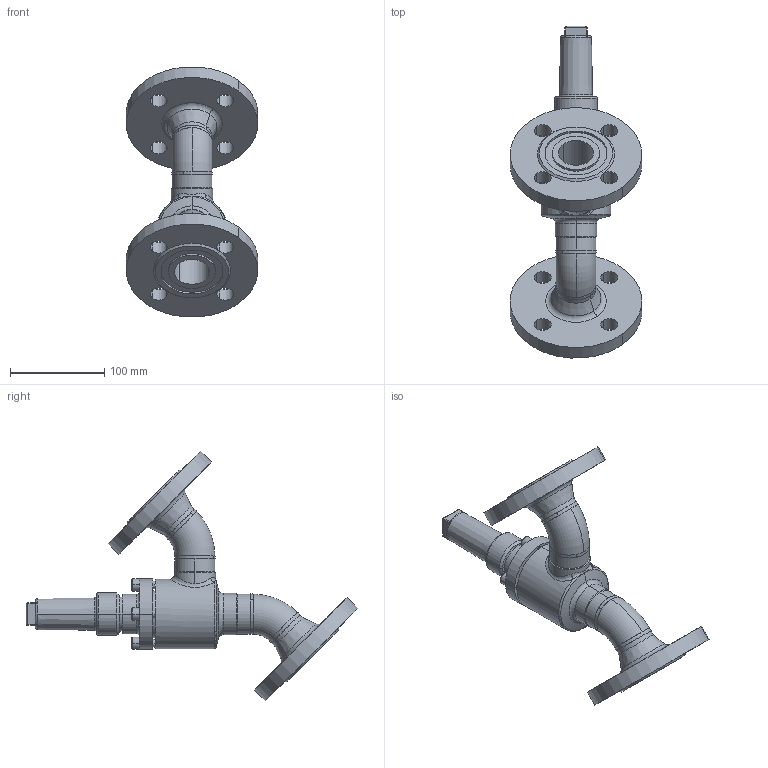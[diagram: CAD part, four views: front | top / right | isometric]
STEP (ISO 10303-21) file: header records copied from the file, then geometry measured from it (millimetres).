
FILE_DESCRIPTION (( 'STEP AP214' ), '1' );
FILE_NAME ('HRAR22320D13-DN032_DIN-FL-N_PS40.STEP', '2006-04-27T12:35:25', ( 'Herr Grams' ), ( 'AWP GmbH' ), 'SwSTEP 2.0', 'SolidWorks 2002296', '' );
FILE_SCHEMA (( 'AUTOMOTIVE_DESIGN' ));
Length unit declared in the file: millimetre
Products named in the file (14): HRAR22320D13-DN032_DIN-FL-N_PS40; Kappe16402_DN010-32_Standard; AVR26300E13_Deck+Schr-DN25-32_Standard; Deckel26300E13-DN25-32_Standard; Zylinderschraube-DIN912_M 8x 25; Gehäuse-kpl16320-DN032_DIN_PS40_Standard; bead16320-DN032-2_Standard; bead16320-DN032-1_Standard; Gehäuse-kpl16300-DN032_R1_Standard; Rohrbogen 45°_R1-Fase_Rohrbogen-DN032-45°; Gehäuse16400-DN032_Standard; bead16300-Geh-032-1_Standard; bead16300-Geh-032-2_Standard; Flansch-DIN2635-Nut_PS40_DIN-Flansch-DN032_PS40-Nut
Assembly tree (18 placements, depth 4):
  HRAR22320D13-DN032_DIN-FL-N_PS40
    Gehäuse-kpl16320-DN032_DIN_PS40_Standard
      bead16320-DN032-1_Standard
      Gehäuse-kpl16300-DN032_R1_Standard
        Rohrbogen 45°_R1-Fase_Rohrbogen-DN032-45°  x2
        Gehäuse16400-DN032_Standard
        bead16300-Geh-032-1_Standard
        bead16300-Geh-032-2_Standard
      Flansch-DIN2635-Nut_PS40_DIN-Flansch-DN032_PS40-Nut  x2
      bead16320-DN032-2_Standard
    AVR26300E13_Deck+Schr-DN25-32_Standard
      Deckel26300E13-DN25-32_Standard
      Zylinderschraube-DIN912_M 8x 25  x4
    Kappe16402_DN010-32_Standard
Bounding box: 139.47 x 352.74 x 265.6 mm (x, y, z)
Volume: 860266.4 mm3; surface area: 209863.7 mm2
Topology: 15 solids, 15 shells, 325 faces, 747 edges, 466 vertices
Faces by surface type: cylinder 118, plane 86, cone 68, torus 35, bspline 18
Entity records: 54363 total; most frequent: CARTESIAN_POINT 48280, DIRECTION 1124, ORIENTED_EDGE 1070, EDGE_CURVE 535, AXIS2_PLACEMENT_3D 477, VERTEX_POINT 334, EDGE_LOOP 269, CIRCLE 242
